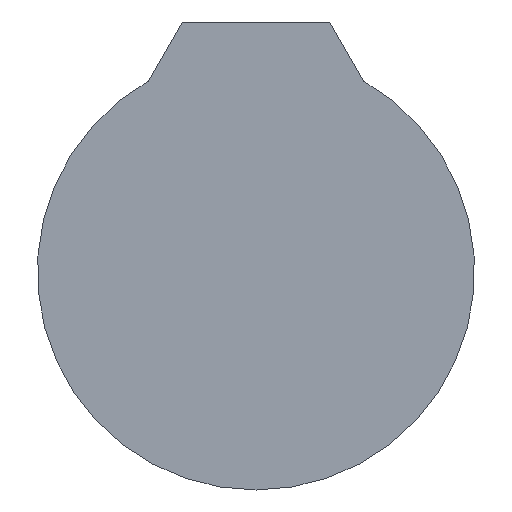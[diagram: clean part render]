
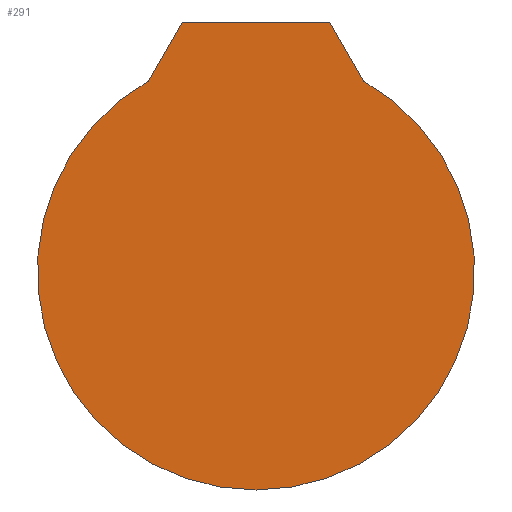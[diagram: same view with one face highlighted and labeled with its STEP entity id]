
A CAD part, front view. The second image highlights one B-rep face of the part: STEP entity #291.
In plain terms, the highlighted planar face has unit normal (0, -1, 0).
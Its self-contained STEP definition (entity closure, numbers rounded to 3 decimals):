
#8 = VERTEX_POINT ( 'NONE', #250 ) ;
#13 = LINE ( 'NONE', #264, #69 ) ;
#14 = VERTEX_POINT ( 'NONE', #80 ) ;
#20 = CARTESIAN_POINT ( 'NONE',  ( 6., 0., 20.3 ) ) ;
#21 = DIRECTION ( 'NONE',  ( 0.5, 0., 0.866 ) ) ;
#27 = CARTESIAN_POINT ( 'NONE',  ( 0., 0., 20.3 ) ) ;
#31 = EDGE_CURVE ( 'NONE', #168, #8, #147, .T. ) ;
#48 = DIRECTION ( 'NONE',  ( 0.5, 0., -0.866 ) ) ;
#52 = CARTESIAN_POINT ( 'NONE',  ( 0., 0., 0. ) ) ;
#55 = DIRECTION ( 'NONE',  ( 0., 1., 0. ) ) ;
#64 = EDGE_CURVE ( 'NONE', #14, #168, #133, .T. ) ;
#69 = VECTOR ( 'NONE', #21, 1000. ) ;
#70 = DIRECTION ( 'NONE',  ( 0., 0., 1. ) ) ;
#74 = ORIENTED_EDGE ( 'NONE', *, *, #31, .F. ) ;
#75 = LINE ( 'NONE', #27, #218 ) ;
#80 = CARTESIAN_POINT ( 'NONE',  ( 8.781, 0., 15.483 ) ) ;
#89 = DIRECTION ( 'NONE',  ( 0., 0., 1. ) ) ;
#100 = VERTEX_POINT ( 'NONE', #235 ) ;
#103 = LINE ( 'NONE', #20, #228 ) ;
#105 = CARTESIAN_POINT ( 'NONE',  ( 0., 0., -17.8 ) ) ;
#111 = DIRECTION ( 'NONE',  ( 0., 0., 1. ) ) ;
#133 = CIRCLE ( 'NONE', #281, 17.8 ) ;
#135 = DIRECTION ( 'NONE',  ( 0., 1., 0. ) ) ;
#147 = CIRCLE ( 'NONE', #214, 17.8 ) ;
#154 = ORIENTED_EDGE ( 'NONE', *, *, #172, .F. ) ;
#162 = CARTESIAN_POINT ( 'NONE',  ( 6., 0., 20.3 ) ) ;
#163 = EDGE_CURVE ( 'NONE', #8, #100, #13, .T. ) ;
#168 = VERTEX_POINT ( 'NONE', #105 ) ;
#172 = EDGE_CURVE ( 'NONE', #201, #14, #103, .T. ) ;
#189 = DIRECTION ( 'NONE',  ( 1., 0., 0. ) ) ;
#193 = PLANE ( 'NONE',  #277 ) ;
#194 = FACE_OUTER_BOUND ( 'NONE', #224, .T. ) ;
#201 = VERTEX_POINT ( 'NONE', #162 ) ;
#203 = CARTESIAN_POINT ( 'NONE',  ( 0., 0., 0. ) ) ;
#204 = EDGE_CURVE ( 'NONE', #100, #201, #75, .T. ) ;
#214 = AXIS2_PLACEMENT_3D ( 'NONE', #258, #135, #70 ) ;
#218 = VECTOR ( 'NONE', #189, 1000. ) ;
#224 = EDGE_LOOP ( 'NONE', ( #243, #154, #251, #305, #74 ) ) ;
#228 = VECTOR ( 'NONE', #48, 1000. ) ;
#235 = CARTESIAN_POINT ( 'NONE',  ( -6., 0., 20.3 ) ) ;
#243 = ORIENTED_EDGE ( 'NONE', *, *, #64, .F. ) ;
#250 = CARTESIAN_POINT ( 'NONE',  ( -8.781, 0., 15.483 ) ) ;
#251 = ORIENTED_EDGE ( 'NONE', *, *, #204, .F. ) ;
#258 = CARTESIAN_POINT ( 'NONE',  ( 0., 0., 0. ) ) ;
#264 = CARTESIAN_POINT ( 'NONE',  ( -6., 0., 20.3 ) ) ;
#277 = AXIS2_PLACEMENT_3D ( 'NONE', #52, #55, #89 ) ;
#281 = AXIS2_PLACEMENT_3D ( 'NONE', #203, #314, #111 ) ;
#291 = ADVANCED_FACE ( 'NONE', ( #194 ), #193, .F. ) ;
#305 = ORIENTED_EDGE ( 'NONE', *, *, #163, .F. ) ;
#314 = DIRECTION ( 'NONE',  ( 0., 1., 0. ) ) ;
